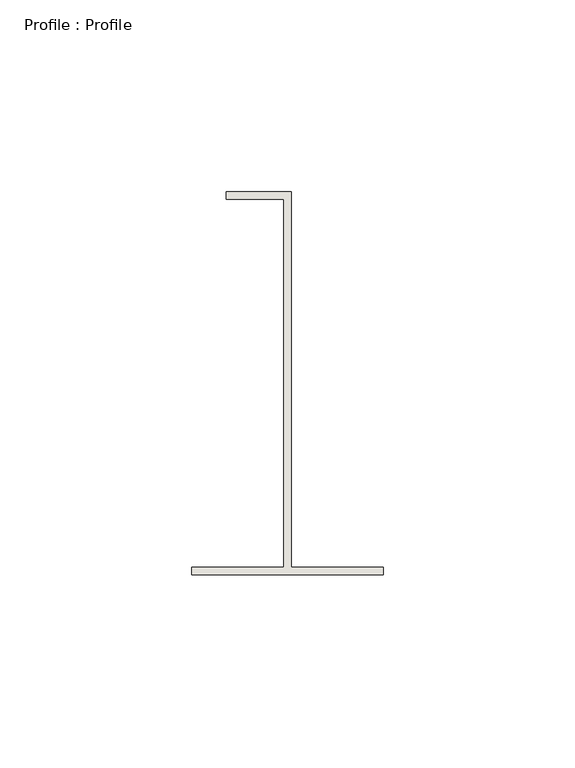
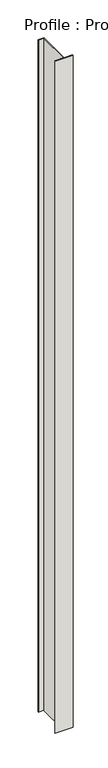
"""IFC4 building model written with IfcOpenShell, lengths in millimetres: wall geometry, Profile : Profile."""

from ifc_helpers import new_model, si_unit, origin, origin_with_axes, place, context, project, spatial, polyline, outline, extrude, source, transform, mapped, element, save


def profile_profile_2e7e55d7(model_context):
    return source(origin(), model_context, "Body", "SweptSolid", [
        extrude(outline(polyline([(20730.7747715, 15004.3863455), (20754.7747715, 15004.3863455), (20754.7747715, 15002.3863455), (20704.7747715, 15002.3863455), (20704.7747715, 15004.3863455), (20728.7747715, 15004.3863455), (20728.7747715, 15100.3863455), (20713.7747715, 15100.3863455), (20713.7747715, 15102.3863455), (20730.7747715, 15102.3863455), (20730.7747715, 15004.3863455)])), origin_with_axes(), (0.0, 0.0, 1.0), 2000.0),
    ])


if __name__ == "__main__":
    model = new_model("IFC4")
    model_context = context("Model", 3, world=origin())
    ifc_project = project(units=[si_unit("LENGTHUNIT", "METRE", prefix="MILLI")], contexts=[model_context])
    site = spatial("IfcSite", under=ifc_project)
    building = spatial("IfcBuilding", under=site)
    placement = place(None, origin())
    profile_profile_shape = profile_profile_2e7e55d7(model_context)
    element("IfcWall", 1, ObjectType="Profile : Profile", at=placement, inside=building, context=model_context, shape_type="MappedRepresentation", body=[
        mapped(profile_profile_shape, transform((0.0, 0.0, 0.0), x_axis=(1.0, 0.0, 0.0), y_axis=(0.0, 1.0, 0.0), z_axis=(0.0, 0.0, 1.0))),
    ])
    save(model, "model.ifc")
